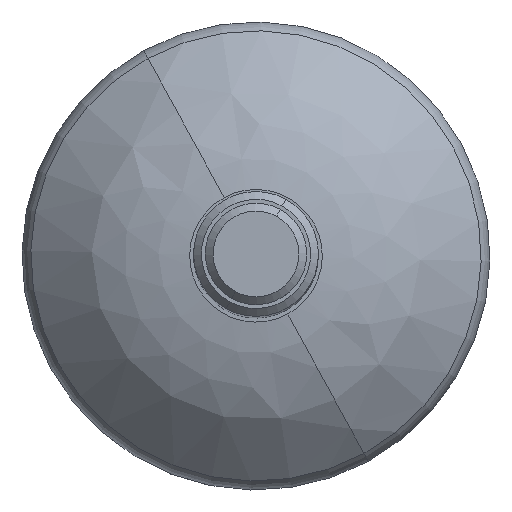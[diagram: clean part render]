
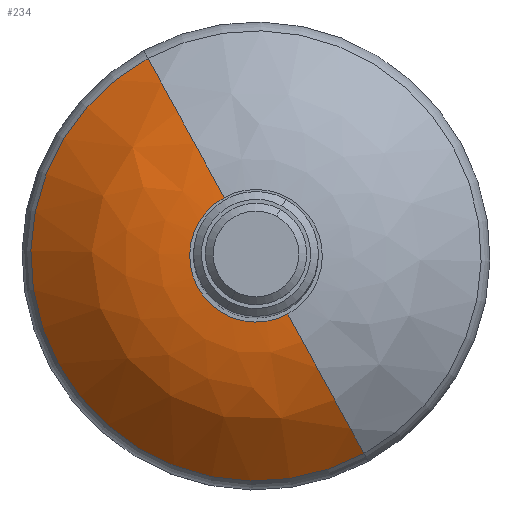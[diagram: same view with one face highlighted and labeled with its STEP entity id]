
A CAD part, top view. The second image highlights one B-rep face of the part: STEP entity #234.
In plain terms, the highlighted face is a revolution surface.
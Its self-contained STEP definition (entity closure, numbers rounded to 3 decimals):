
#134=CARTESIAN_POINT('Vertex',(-13.838,25.33,6.173)) ;
#141=CARTESIAN_POINT('Vertex',(13.838,-25.33,6.173)) ;
#161=CARTESIAN_POINT('Axis2P3D Location',(0.,0.,6.173)) ;
#184=CARTESIAN_POINT('Control Point',(13.838,-25.33,6.173)) ;
#185=CARTESIAN_POINT('Control Point',(12.037,-22.034,10.747)) ;
#186=CARTESIAN_POINT('Control Point',(9.657,-17.677,14.335)) ;
#187=CARTESIAN_POINT('Control Point',(6.9,-12.63,16.444)) ;
#188=CARTESIAN_POINT('Control Point',(4.075,-7.459,17.)) ;
#189=CARTESIAN_POINT('Vertex',(4.075,-7.459,17.)) ;
#193=CARTESIAN_POINT('Control Point',(-13.838,25.33,6.173)) ;
#194=CARTESIAN_POINT('Control Point',(-12.037,22.034,10.747)) ;
#195=CARTESIAN_POINT('Control Point',(-9.657,17.677,14.335)) ;
#196=CARTESIAN_POINT('Control Point',(-6.9,12.63,16.444)) ;
#197=CARTESIAN_POINT('Control Point',(-4.075,7.459,17.)) ;
#198=CARTESIAN_POINT('Vertex',(-4.075,7.459,17.)) ;
#214=CARTESIAN_POINT('Control Point',(-13.838,25.33,6.173)) ;
#215=CARTESIAN_POINT('Control Point',(-12.037,22.034,10.747)) ;
#216=CARTESIAN_POINT('Control Point',(-9.657,17.677,14.335)) ;
#217=CARTESIAN_POINT('Control Point',(-6.9,12.63,16.444)) ;
#218=CARTESIAN_POINT('Control Point',(-4.075,7.459,17.)) ;
#219=CARTESIAN_POINT('Axis1P Location',(0.,0.,-12.867)) ;
#223=CARTESIAN_POINT('Axis2P3D Location',(0.,0.,17.)) ;
#162=DIRECTION('Axis2P3D Direction',(0.,0.,1.)) ;
#220=DIRECTION('Axis1P Direction',(0.,-0.,-1.)) ;
#224=DIRECTION('Axis2P3D Direction',(0.,-0.,-1.)) ;
#163=AXIS2_PLACEMENT_3D('Circle Axis2P3D',#161,#162,$) ;
#225=AXIS2_PLACEMENT_3D('Circle Axis2P3D',#223,#224,$) ;
#229=ORIENTED_EDGE('',*,*,#200,.F.) ;
#230=ORIENTED_EDGE('',*,*,#165,.T.) ;
#231=ORIENTED_EDGE('',*,*,#191,.T.) ;
#232=ORIENTED_EDGE('',*,*,#227,.F.) ;
#234=ADVANCED_FACE('Brep With Voids',(#233),#222,.F.) ;
#221=AXIS1_PLACEMENT('Revolution Surface Axis1P',#219,#220) ;
#183=B_SPLINE_CURVE_WITH_KNOTS('',4,(#184,#185,#186,#187,#188),.UNSPECIFIED.,.F.,.U.,(5,5),(20.628,44.716),.UNSPECIFIED.) ;
#192=B_SPLINE_CURVE_WITH_KNOTS('',4,(#193,#194,#195,#196,#197),.UNSPECIFIED.,.F.,.U.,(5,5),(20.628,44.716),.UNSPECIFIED.) ;
#213=B_SPLINE_CURVE_WITH_KNOTS('',4,(#214,#215,#216,#217,#218),.UNSPECIFIED.,.F.,.U.,(5,5),(20.628,44.716),.UNSPECIFIED.) ;
#164=CIRCLE('generated circle',#163,28.864) ;
#226=CIRCLE('generated circle',#225,8.5) ;
#165=EDGE_CURVE('',#135,#142,#164,.T.) ;
#191=EDGE_CURVE('',#142,#190,#183,.T.) ;
#200=EDGE_CURVE('',#135,#199,#192,.T.) ;
#227=EDGE_CURVE('',#199,#190,#226,.F.) ;
#228=EDGE_LOOP('',(#229,#230,#231,#232)) ;
#233=FACE_OUTER_BOUND('',#228,.T.) ;
#222=SURFACE_OF_REVOLUTION('Surface of Revolution',#213,#221) ;
#135=VERTEX_POINT('',#134) ;
#142=VERTEX_POINT('',#141) ;
#190=VERTEX_POINT('',#189) ;
#199=VERTEX_POINT('',#198) ;
